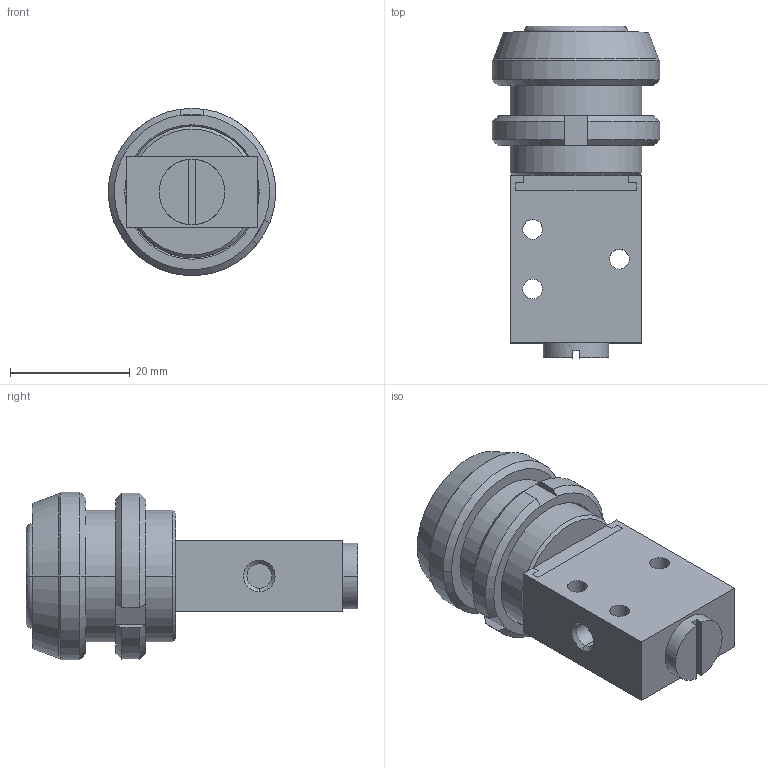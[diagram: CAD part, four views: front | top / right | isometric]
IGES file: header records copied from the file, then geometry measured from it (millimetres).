
Global section: file name: No Iges File Name specified; native system: AutoDesk Inventor R12.0; preprocessor: AutoDesk Inventor Iges Exporter R12.0; date: 20080225.141212; units: millimetre
Bounding box: 28 x 55.5 x 28 mm (x, y, z)
Volume: 19267.5 mm3; surface area: 7339.7 mm2
Topology: 3 solids, 3 shells, 102 faces, 244 edges, 154 vertices
Faces by surface type: plane 50, bspline 21, cone 14, cylinder 9, revolution 8
